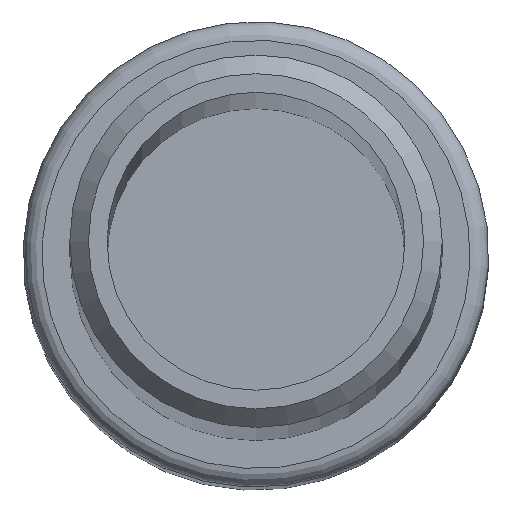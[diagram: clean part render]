
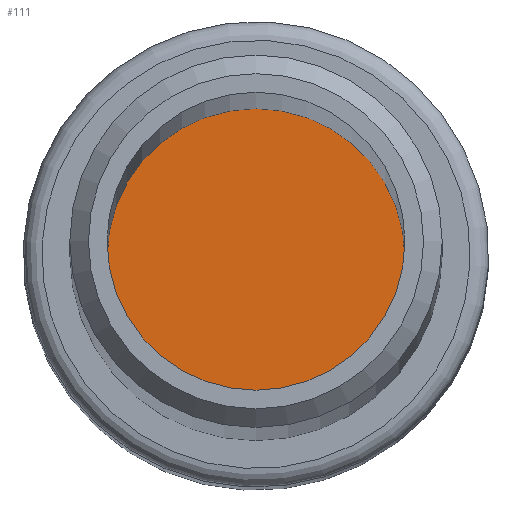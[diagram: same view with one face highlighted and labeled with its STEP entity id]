
A CAD part, top view. The second image highlights one B-rep face of the part: STEP entity #111.
In plain terms, the highlighted planar face has unit normal (0, 0, 1).
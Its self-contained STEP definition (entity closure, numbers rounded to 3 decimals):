
#26=ORIENTED_EDGE('',*,*,#44,.T.);
#44=EDGE_CURVE('',#53,#53,#62,.T.);
#53=VERTEX_POINT('',#196);
#62=CIRCLE('',#135,8.);
#71=EDGE_LOOP('',(#26));
#89=FACE_BOUND('',#71,.T.);
#107=PLANE('',#134);
#111=ADVANCED_FACE('',(#89),#107,.T.);
#134=AXIS2_PLACEMENT_3D('',#194,#155,#156);
#135=AXIS2_PLACEMENT_3D('',#195,#157,#158);
#155=DIRECTION('',(0.,0.,1.));
#156=DIRECTION('',(0.838,-0.545,0.));
#157=DIRECTION('',(0.,0.,1.));
#158=DIRECTION('',(1.,0.,0.));
#194=CARTESIAN_POINT('',(0.,0.,-500.));
#195=CARTESIAN_POINT('',(0.,0.,-500.));
#196=CARTESIAN_POINT('',(8.,0.,-500.));
